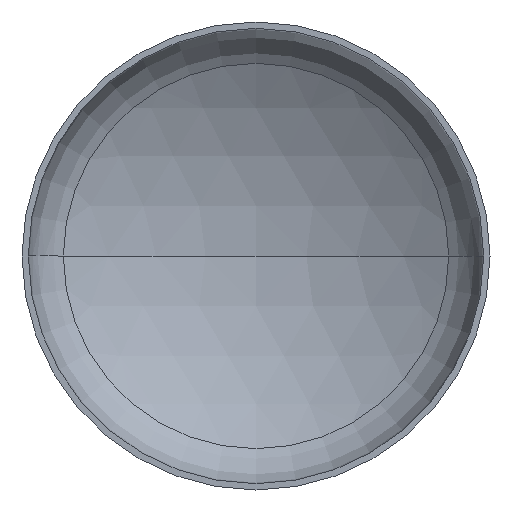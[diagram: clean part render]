
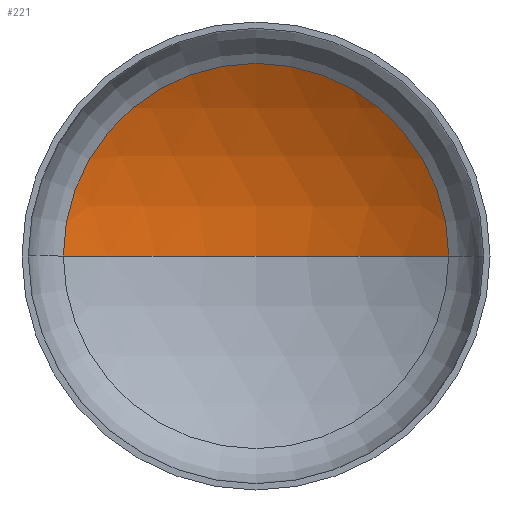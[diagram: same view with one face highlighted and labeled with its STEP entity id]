
A CAD part, front view. The second image highlights one B-rep face of the part: STEP entity #221.
In plain terms, the highlighted spherical face has radius 6000 mm.
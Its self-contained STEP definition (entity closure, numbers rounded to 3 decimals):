
#19 = VERTEX_POINT ( 'NONE', #241 ) ;
#20 = ORIENTED_EDGE ( 'NONE', *, *, #104, .T. ) ;
#21 = DIRECTION ( 'NONE',  ( -1., 0., 0. ) ) ;
#22 = ORIENTED_EDGE ( 'NONE', *, *, #103, .T. ) ;
#25 = DIRECTION ( 'NONE',  ( 0., 0., -1. ) ) ;
#49 = AXIS2_PLACEMENT_3D ( 'NONE', #168, #25, #21 ) ;
#64 = AXIS2_PLACEMENT_3D ( 'NONE', #215, #209, #214 ) ;
#68 = AXIS2_PLACEMENT_3D ( 'NONE', #190, #191, #290 ) ;
#69 = AXIS2_PLACEMENT_3D ( 'NONE', #296, #285, #283 ) ;
#70 = ORIENTED_EDGE ( 'NONE', *, *, #105, .F. ) ;
#73 = VERTEX_POINT ( 'NONE', #238 ) ;
#90 = EDGE_LOOP ( 'NONE', ( #70, #20, #22 ) ) ;
#103 = EDGE_CURVE ( 'NONE', #73, #189, #231, .T. ) ;
#104 = EDGE_CURVE ( 'NONE', #19, #73, #155, .T. ) ;
#105 = EDGE_CURVE ( 'NONE', #19, #189, #400, .T. ) ;
#155 = CIRCLE ( 'NONE', #68, 6000. ) ;
#168 = CARTESIAN_POINT ( 'NONE',  ( 0., -4079.392, 0. ) ) ;
#189 = VERTEX_POINT ( 'NONE', #319 ) ;
#190 = CARTESIAN_POINT ( 'NONE',  ( 0., -4079.392, 0. ) ) ;
#191 = DIRECTION ( 'NONE',  ( 0., 0., -1. ) ) ;
#209 = DIRECTION ( 'NONE',  ( 0., 0., 1. ) ) ;
#214 = DIRECTION ( 'NONE',  ( 1., 0., 0. ) ) ;
#215 = CARTESIAN_POINT ( 'NONE',  ( 0., -4079.392, 0. ) ) ;
#221 = ADVANCED_FACE ( 'NONE', ( #326 ), #275, .F. ) ;
#231 = CIRCLE ( 'NONE', #69, 3087.307 ) ;
#238 = CARTESIAN_POINT ( 'NONE',  ( 3087.307, 1065.366, 0. ) ) ;
#241 = CARTESIAN_POINT ( 'NONE',  ( 0., 1920.608, 0. ) ) ;
#275 = SPHERICAL_SURFACE ( 'NONE', #49, 6000. ) ;
#283 = DIRECTION ( 'NONE',  ( 1., 0., 0. ) ) ;
#285 = DIRECTION ( 'NONE',  ( 0., -1., 0. ) ) ;
#290 = DIRECTION ( 'NONE',  ( -1., 0., 0. ) ) ;
#296 = CARTESIAN_POINT ( 'NONE',  ( 0., 1065.366, 0. ) ) ;
#319 = CARTESIAN_POINT ( 'NONE',  ( -3087.307, 1065.366, 0. ) ) ;
#326 = FACE_OUTER_BOUND ( 'NONE', #90, .T. ) ;
#400 = CIRCLE ( 'NONE', #64, 6000. ) ;
